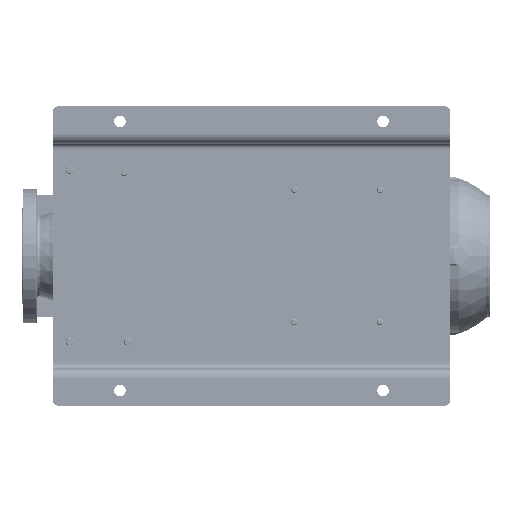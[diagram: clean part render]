
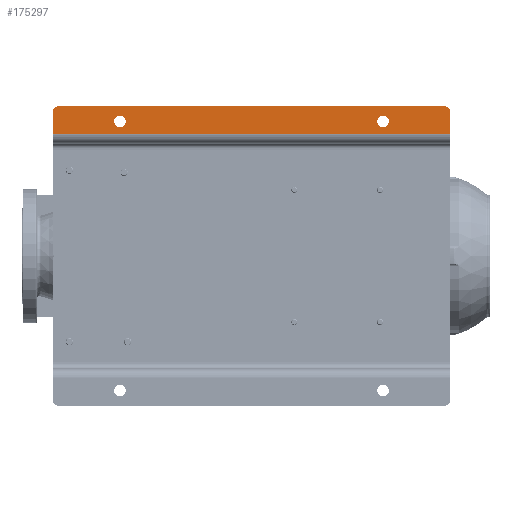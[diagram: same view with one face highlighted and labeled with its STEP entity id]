
A CAD part, front view. The second image highlights one B-rep face of the part: STEP entity #175297.
In plain terms, the highlighted planar face has unit normal (0, -1, 0).
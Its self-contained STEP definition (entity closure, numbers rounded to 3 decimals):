
#696 = VERTEX_POINT ( 'NONE', #66567 ) ;
#2230 = CARTESIAN_POINT ( 'NONE',  ( 465., 0., -540. ) ) ;
#3216 = AXIS2_PLACEMENT_3D ( 'NONE', #153687, #30525, #60216 ) ;
#5801 = LINE ( 'NONE', #103762, #78259 ) ;
#8584 = EDGE_LOOP ( 'NONE', ( #90903, #123747 ) ) ;
#10597 = DIRECTION ( 'NONE',  ( 0., 0., -1. ) ) ;
#15635 = VERTEX_POINT ( 'NONE', #37955 ) ;
#16604 = DIRECTION ( 'NONE',  ( 0., 0., -1. ) ) ;
#18221 = DIRECTION ( 'NONE',  ( 0., -1., 0. ) ) ;
#22011 = DIRECTION ( 'NONE',  ( 0., -1., 0. ) ) ;
#22361 = DIRECTION ( 'NONE',  ( 0., 0., -1. ) ) ;
#30525 = DIRECTION ( 'NONE',  ( 0., 1., 0. ) ) ;
#33294 = ORIENTED_EDGE ( 'NONE', *, *, #40220, .T. ) ;
#33786 = CIRCLE ( 'NONE', #157264, 10. ) ;
#34048 = ORIENTED_EDGE ( 'NONE', *, *, #35996, .T. ) ;
#34947 = CARTESIAN_POINT ( 'NONE',  ( 480., 0., -10. ) ) ;
#35996 = EDGE_CURVE ( 'NONE', #696, #91454, #83175, .T. ) ;
#37196 = CARTESIAN_POINT ( 'NONE',  ( 480., 0., 0. ) ) ;
#37955 = CARTESIAN_POINT ( 'NONE',  ( 455.5, 0., -540. ) ) ;
#39641 = CIRCLE ( 'NONE', #56862, 10. ) ;
#39999 = ORIENTED_EDGE ( 'NONE', *, *, #66638, .T. ) ;
#40220 = EDGE_CURVE ( 'NONE', #91454, #84485, #39641, .T. ) ;
#41369 = CARTESIAN_POINT ( 'NONE',  ( 465., 0., -110. ) ) ;
#45658 = ORIENTED_EDGE ( 'NONE', *, *, #155247, .T. ) ;
#46108 = CARTESIAN_POINT ( 'NONE',  ( 429., 0., -650. ) ) ;
#46184 = AXIS2_PLACEMENT_3D ( 'NONE', #133742, #51971, #10597 ) ;
#47824 = CARTESIAN_POINT ( 'NONE',  ( 455.5, 0., -110. ) ) ;
#51885 = VERTEX_POINT ( 'NONE', #102083 ) ;
#51971 = DIRECTION ( 'NONE',  ( 0., 1., 0. ) ) ;
#51979 = VECTOR ( 'NONE', #138705, 1000. ) ;
#56824 = AXIS2_PLACEMENT_3D ( 'NONE', #2230, #57070, #16604 ) ;
#56862 = AXIS2_PLACEMENT_3D ( 'NONE', #34947, #131116, #22361 ) ;
#57070 = DIRECTION ( 'NONE',  ( 0., 1., 0. ) ) ;
#57916 = EDGE_CURVE ( 'NONE', #146871, #51885, #120472, .T. ) ;
#59734 = EDGE_CURVE ( 'NONE', #15635, #151303, #89305, .T. ) ;
#60216 = DIRECTION ( 'NONE',  ( 0., 0., -1. ) ) ;
#61608 = EDGE_CURVE ( 'NONE', #151303, #15635, #88409, .T. ) ;
#66567 = CARTESIAN_POINT ( 'NONE',  ( 490., 0., -640. ) ) ;
#66638 = EDGE_CURVE ( 'NONE', #82029, #76545, #175594, .T. ) ;
#67894 = CARTESIAN_POINT ( 'NONE',  ( 490., 0., -10. ) ) ;
#70385 = LINE ( 'NONE', #151310, #51979 ) ;
#74049 = ORIENTED_EDGE ( 'NONE', *, *, #142232, .F. ) ;
#75738 = FACE_BOUND ( 'NONE', #169684, .T. ) ;
#76545 = VERTEX_POINT ( 'NONE', #133866 ) ;
#76612 = DIRECTION ( 'NONE',  ( 0., 0., -1. ) ) ;
#76834 = DIRECTION ( 'NONE',  ( 0., 0., -1. ) ) ;
#78259 = VECTOR ( 'NONE', #145958, 1000. ) ;
#79874 = EDGE_CURVE ( 'NONE', #51885, #146871, #83667, .T. ) ;
#80296 = CARTESIAN_POINT ( 'NONE',  ( 445., 0., -650. ) ) ;
#82029 = VERTEX_POINT ( 'NONE', #118895 ) ;
#83175 = LINE ( 'NONE', #164102, #174811 ) ;
#83667 = CIRCLE ( 'NONE', #3216, 9.5 ) ;
#84485 = VERTEX_POINT ( 'NONE', #37196 ) ;
#87435 = CARTESIAN_POINT ( 'NONE',  ( 474.5, 0., -540. ) ) ;
#88409 = CIRCLE ( 'NONE', #56824, 9.5 ) ;
#89305 = CIRCLE ( 'NONE', #46184, 9.5 ) ;
#90689 = CARTESIAN_POINT ( 'NONE',  ( 480., 0., -650. ) ) ;
#90903 = ORIENTED_EDGE ( 'NONE', *, *, #57916, .T. ) ;
#91454 = VERTEX_POINT ( 'NONE', #67894 ) ;
#96650 = DIRECTION ( 'NONE',  ( 0., 0., 1. ) ) ;
#102083 = CARTESIAN_POINT ( 'NONE',  ( 474.5, 0., -110. ) ) ;
#103762 = CARTESIAN_POINT ( 'NONE',  ( 429., 0., -650. ) ) ;
#103923 = EDGE_LOOP ( 'NONE', ( #74049, #39999, #153865, #45658, #34048, #33294 ) ) ;
#106223 = DIRECTION ( 'NONE',  ( 0., 1., 0. ) ) ;
#118895 = CARTESIAN_POINT ( 'NONE',  ( 445., 0., 0. ) ) ;
#120472 = CIRCLE ( 'NONE', #126225, 9.5 ) ;
#122486 = DIRECTION ( 'NONE',  ( 0., 0., -1. ) ) ;
#123747 = ORIENTED_EDGE ( 'NONE', *, *, #79874, .T. ) ;
#126225 = AXIS2_PLACEMENT_3D ( 'NONE', #41369, #106223, #150178 ) ;
#127105 = ORIENTED_EDGE ( 'NONE', *, *, #59734, .T. ) ;
#130545 = FACE_BOUND ( 'NONE', #8584, .T. ) ;
#131116 = DIRECTION ( 'NONE',  ( 0., -1., 0. ) ) ;
#133742 = CARTESIAN_POINT ( 'NONE',  ( 465., 0., -540. ) ) ;
#133866 = CARTESIAN_POINT ( 'NONE',  ( 445., 0., -650. ) ) ;
#138705 = DIRECTION ( 'NONE',  ( 1., 0., 0. ) ) ;
#141365 = FACE_OUTER_BOUND ( 'NONE', #103923, .T. ) ;
#142232 = EDGE_CURVE ( 'NONE', #82029, #84485, #70385, .T. ) ;
#144275 = CARTESIAN_POINT ( 'NONE',  ( 480., 0., -640. ) ) ;
#145958 = DIRECTION ( 'NONE',  ( 1., 0., 0. ) ) ;
#146045 = EDGE_CURVE ( 'NONE', #76545, #146504, #5801, .T. ) ;
#146126 = AXIS2_PLACEMENT_3D ( 'NONE', #46108, #18221, #76612 ) ;
#146504 = VERTEX_POINT ( 'NONE', #90689 ) ;
#146871 = VERTEX_POINT ( 'NONE', #47824 ) ;
#150178 = DIRECTION ( 'NONE',  ( 0., 0., -1. ) ) ;
#150744 = VECTOR ( 'NONE', #122486, 1000. ) ;
#151303 = VERTEX_POINT ( 'NONE', #87435 ) ;
#151310 = CARTESIAN_POINT ( 'NONE',  ( 429., 0., 0. ) ) ;
#153687 = CARTESIAN_POINT ( 'NONE',  ( 465., 0., -110. ) ) ;
#153865 = ORIENTED_EDGE ( 'NONE', *, *, #146045, .T. ) ;
#155247 = EDGE_CURVE ( 'NONE', #146504, #696, #33786, .T. ) ;
#157264 = AXIS2_PLACEMENT_3D ( 'NONE', #144275, #22011, #76834 ) ;
#158442 = PLANE ( 'NONE',  #146126 ) ;
#160874 = ORIENTED_EDGE ( 'NONE', *, *, #61608, .T. ) ;
#164102 = CARTESIAN_POINT ( 'NONE',  ( 490., 0., -650. ) ) ;
#169684 = EDGE_LOOP ( 'NONE', ( #127105, #160874 ) ) ;
#174811 = VECTOR ( 'NONE', #96650, 1000. ) ;
#175297 = ADVANCED_FACE ( 'NONE', ( #130545, #75738, #141365 ), #158442, .T. ) ;
#175594 = LINE ( 'NONE', #80296, #150744 ) ;
